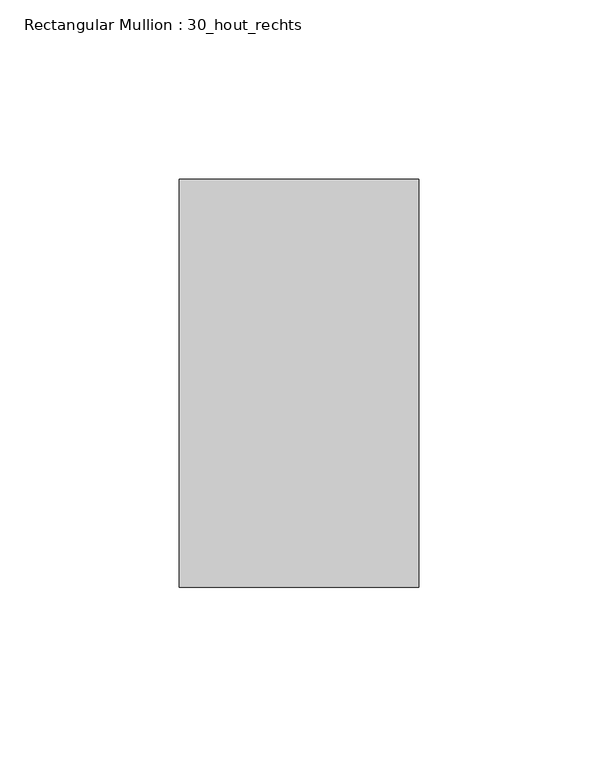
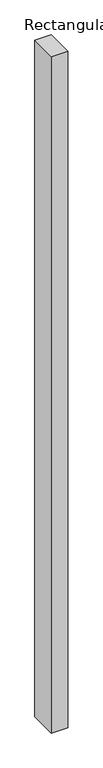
"""IFC4 building model written with IfcOpenShell, lengths in millimetres: member geometry, Rectangular Mullion : 30_hout_rechts."""

from ifc_helpers import new_model, si_unit, frame, origin, place, context, project, spatial, polyline, outline, extrude, source, transform, mapped, element, save


def rectangular_mullion_30_hout_rechts_4bb27563(model_context):
    return source(origin(), model_context, "Body", "SweptSolid", [
        extrude(outline(polyline([(67.0, 57.0), (67.0, -57.0), (0.0, -57.0), (0.0, 57.0), (67.0, 57.0)])), frame((0.0, 0.0, -2899.8333333), z_axis=(0.0, 0.0, 1.0), x_axis=(1.0, 0.0, 0.0)), (0.0, 0.0, 1.0), 2899.8333333),
    ])


if __name__ == "__main__":
    model = new_model("IFC4")
    model_context = context("Model", 3, world=origin())
    ifc_project = project(units=[si_unit("LENGTHUNIT", "METRE", prefix="MILLI")], contexts=[model_context])
    site = spatial("IfcSite", under=ifc_project)
    building = spatial("IfcBuilding", under=site)
    placement = place(None, origin())
    rectangular_mullion_30_hout_rechts_shape = rectangular_mullion_30_hout_rechts_4bb27563(model_context)
    element("IfcMember", 1, ObjectType="Rectangular Mullion : 30_hout_rechts", at=placement, inside=building, context=model_context, shape_type="MappedRepresentation", body=[
        mapped(rectangular_mullion_30_hout_rechts_shape, transform((0.0, 0.0, 0.0), x_axis=(1.0, 0.0, 0.0), y_axis=(0.0, 1.0, 0.0), z_axis=(0.0, 0.0, 1.0))),
    ])
    save(model, "model.ifc")
